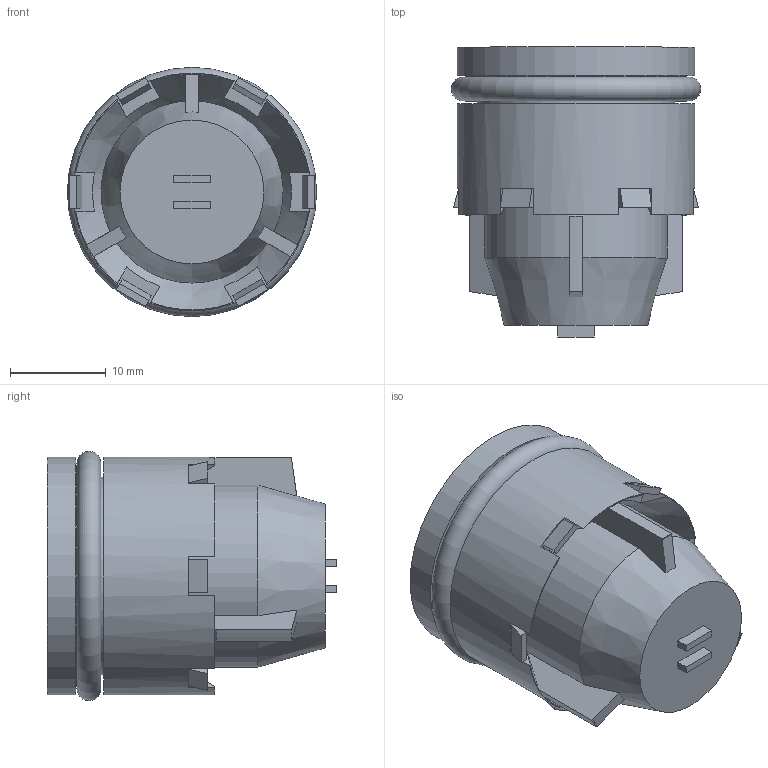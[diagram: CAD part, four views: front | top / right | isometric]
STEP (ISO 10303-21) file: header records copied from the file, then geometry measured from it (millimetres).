
FILE_DESCRIPTION((''),'2;1');
FILE_NAME('C:\Users\duckj\Desktop\10002712.stp','2017-08-02T08:28:15',('duckj'),(''),'Autodesk Inventor 2013','Autodesk Inventor 2013','');
FILE_SCHEMA(('CONFIG_CONTROL_DESIGN'));
Length unit declared in the file: millimetre
Products named in the file (1): 02082017_006
Bounding box: 26 x 30.24 x 26 mm (x, y, z)
Volume: 9916.4 mm3; surface area: 4629.1 mm2
Topology: 2 solids, 2 shells, 102 faces, 258 edges, 170 vertices
Faces by surface type: plane 82, cylinder 10, cone 8, torus 2
Full cylindrical faces by diameter (mm): 15.5 x1, 20.6 x1, 24.8 x2
Entity records: 3100 total; most frequent: CARTESIAN_POINT 576, ORIENTED_EDGE 494, DIRECTION 481, EDGE_CURVE 247, VERTEX_POINT 166, AXIS2_PLACEMENT_3D 161, VECTOR 159, LINE 159
